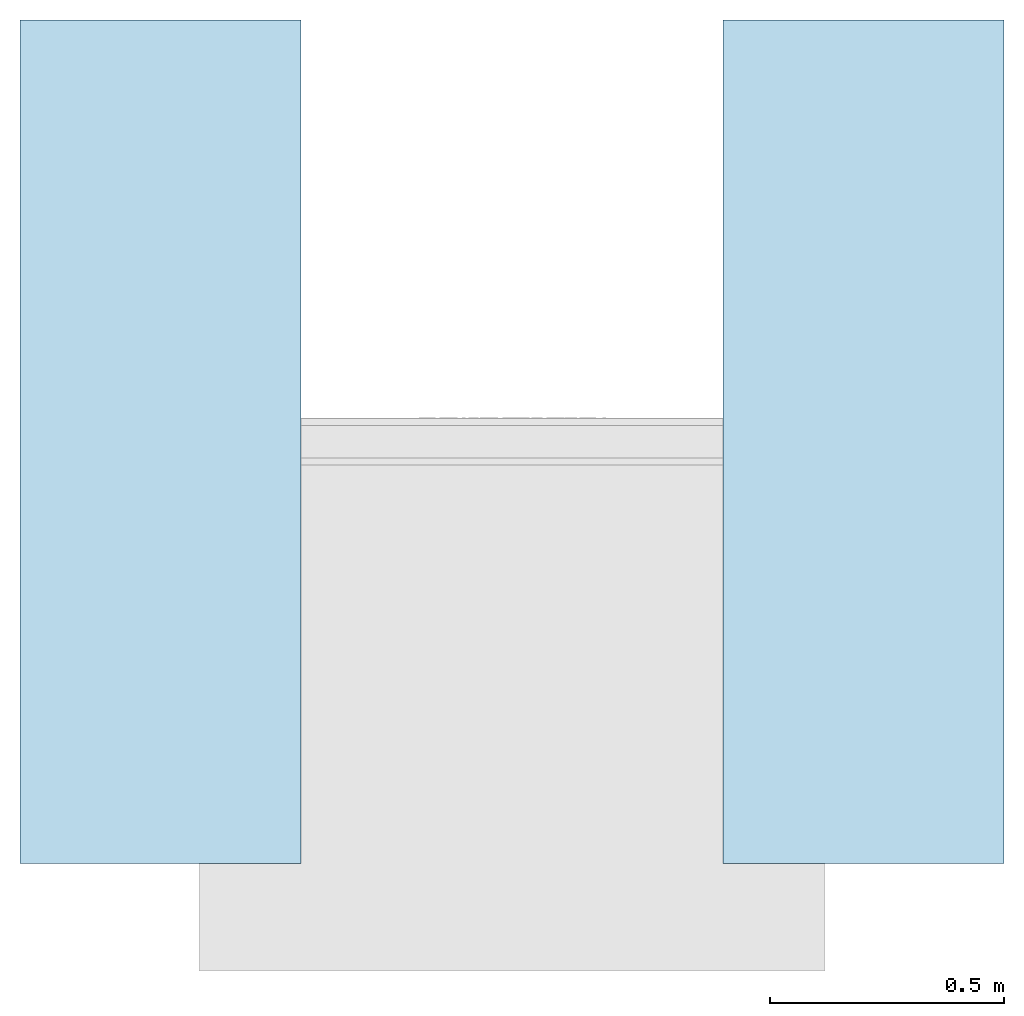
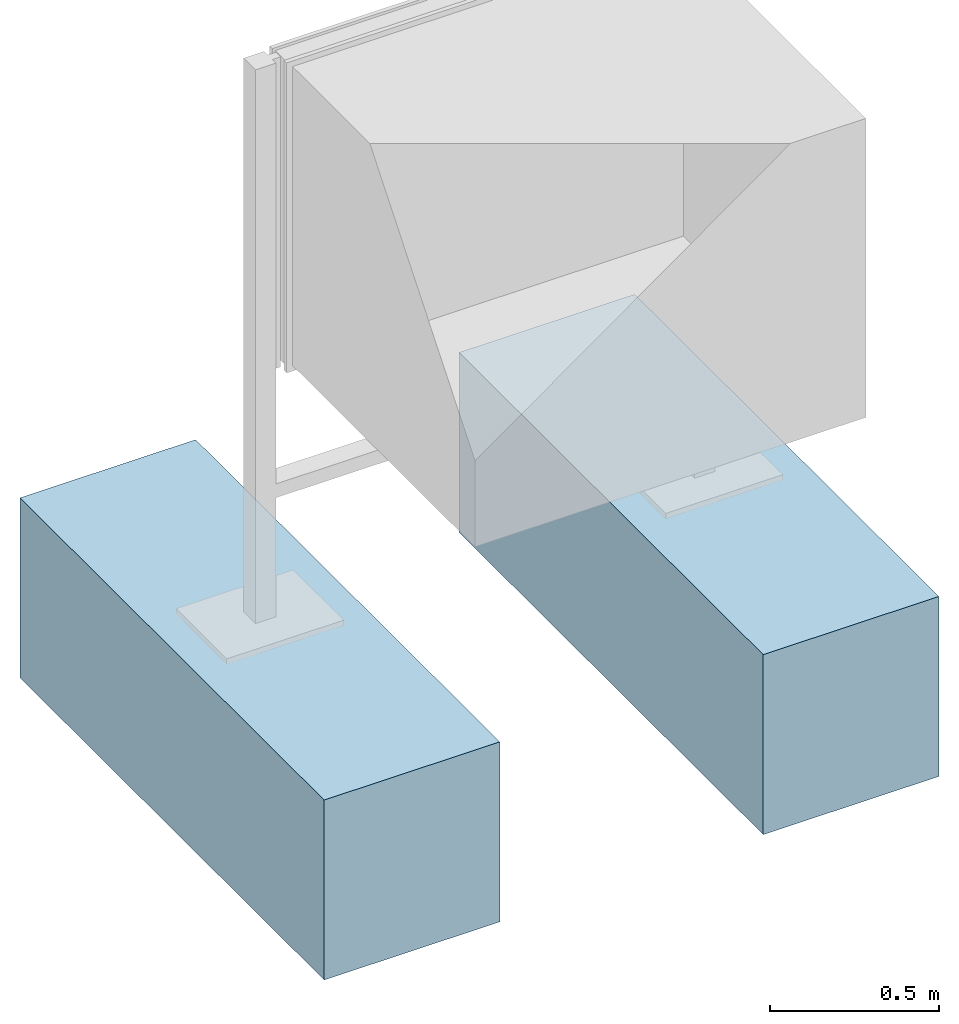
# One storey, incomplete: 2 slabs.
"""IFC4 building model written with IfcOpenShell, lengths in metres."""

from ifc_helpers import new_model, entity, si_unit, converted_unit, direction, frame, frame_2d, origin, origin_2d_with_axis, place, context, subcontext, project, spatial, rectangle, extrude, material, type_object, element, save


model = new_model("IFC4")

# Units and contexts
model_context = context("Model", 3, precision=1e-05, world=origin(), true_north=direction((6.123031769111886e-17, 1.0)))
body_context = subcontext(model_context, "Body", "Model", "MODEL_VIEW")
ifc_project = project(units=[si_unit("LENGTHUNIT", "METRE"), converted_unit("PLANEANGLEUNIT", "DEGREE", entity("IfcPlaneAngleMeasure", 0.017453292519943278), si_unit("PLANEANGLEUNIT", "RADIAN"), dimensions=[0, 0, 0, 0, 0, 0, 0]), si_unit("AREAUNIT", "SQUARE_METRE")], contexts=[model_context])

# Site, building, storey
site_placement = place(None, origin())
site = spatial("IfcSite", under=ifc_project, at=site_placement, Name="Default", CompositionType="ELEMENT")
building_placement = place(site_placement, origin())
building = spatial("IfcBuilding", under=site, at=building_placement, CompositionType="ELEMENT")
storey_placement = place(building_placement, origin())
storey = spatial("IfcBuildingStorey", under=building, at=storey_placement, Name="DB_Bezugshoehe_max_Bahnsteigkante", CompositionType="ELEMENT", Elevation=0.0)

# Slabs
ifc_material = material(Name="DB_Ortbeton", Category="DB_Beton")
slab_type = type_object("IfcSlabType", Name="DB_Vitrine_Fundament:DB_Vitrine_Fundament", PredefinedType="BASESLAB", material=ifc_material)
slab_1_placement = place(storey_placement, origin())
element("IfcSlab", 1, at=slab_1_placement, inside=storey, type_object=slab_type, Name="DB_Vitrine_Fundament:DB_Vitrine_Fundament", ObjectType="DB_Vitrine_Fundament:DB_Vitrine_Fundament", PredefinedType="BASESLAB", context=body_context, shape_type="SweptSolid", body=[
    extrude(rectangle(XDim=1.8, YDim=0.5999999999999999, at=origin_2d_with_axis()), frame((0.0, 0.0, 0.04999999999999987), z_axis=(0.0, 0.0, 1.0), x_axis=(0.0, 1.0, 0.0)), (0.0, 0.0, 1.0), 0.5999999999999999),
    extrude(rectangle(XDim=0.5999999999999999, YDim=1.7999999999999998, at=origin_2d_with_axis()), frame((0.0, 0.0, 0.0), z_axis=(0.0, 0.0, 1.0), x_axis=(-1.0, 0.0, 0.0)), (0.0, 0.0, 1.0), 0.04999999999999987),
])
slab_2_placement = place(storey_placement, origin())
element("IfcSlab", 2, at=slab_2_placement, inside=storey, type_object=slab_type, Name="DB_Vitrine_Fundament:DB_Vitrine_Fundament", ObjectType="DB_Vitrine_Fundament:DB_Vitrine_Fundament", PredefinedType="BASESLAB", context=body_context, shape_type="SweptSolid", body=[
    extrude(rectangle(XDim=1.8, YDim=0.5999999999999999, at=frame_2d((0.0, -8.326672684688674e-17), x_axis=(1.0, 0.0))), frame((1.5000000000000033, 0.0, 0.04999999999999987), z_axis=(0.0, 0.0, 1.0), x_axis=(0.0, 1.0, 0.0)), (0.0, 0.0, 1.0), 0.5999999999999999),
    extrude(rectangle(XDim=0.6000000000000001, YDim=1.7999999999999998, at=origin_2d_with_axis()), frame((1.5000000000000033, 0.0, 0.0), z_axis=(0.0, 0.0, 1.0), x_axis=(-1.0, 0.0, 0.0)), (0.0, 0.0, 1.0), 0.04999999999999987),
])

save(model, "model.ifc")
